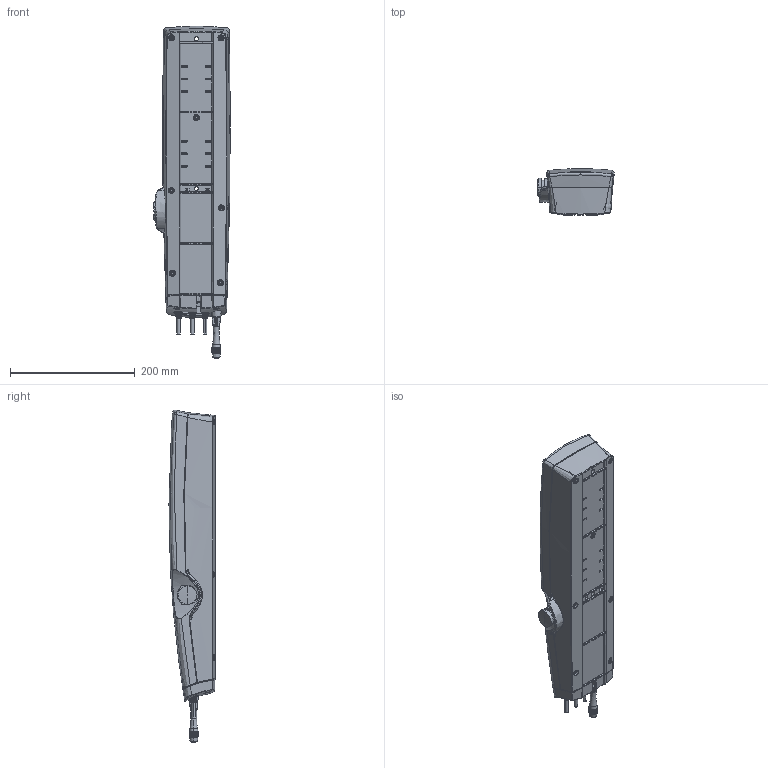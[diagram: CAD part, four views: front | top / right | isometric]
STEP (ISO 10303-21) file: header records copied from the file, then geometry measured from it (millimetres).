
FILE_DESCRIPTION((''),'2;1');
FILE_NAME('CBJH','2006-05-02T',('KH'),(''),'PRO/ENGINEER BY PARAMETRIC TECHNOLOGY CORPORATION, 2005110','PRO/ENGINEER BY PARAMETRIC TECHNOLOGY CORPORATION, 2005110','');
FILE_SCHEMA(('CONFIG_CONTROL_DESIGN'));
Length unit declared in the file: millimetre
Products named in the file (1): CBJH
Bounding box: 123.03 x 74 x 533.11 mm (x, y, z)
Volume: 2899622.6 mm3; surface area: 204700.5 mm2
Topology: 1 solids, 1 shells, 2664 faces, 6890 edges, 4225 vertices
Faces by surface type: cylinder 865, bspline 759, plane 587, torus 306, cone 96, sphere 37, extrusion 14
Entity records: 155084 total; most frequent: CARTESIAN_POINT 64095, ORIENTED_EDGE 13664, DIRECTION 9440, PRESENTATION_STYLE_ASSIGNMENT 7949, STYLED_ITEM 6833, CURVE_STYLE 6832, EDGE_CURVE 6832, VERTEX_POINT 4225
